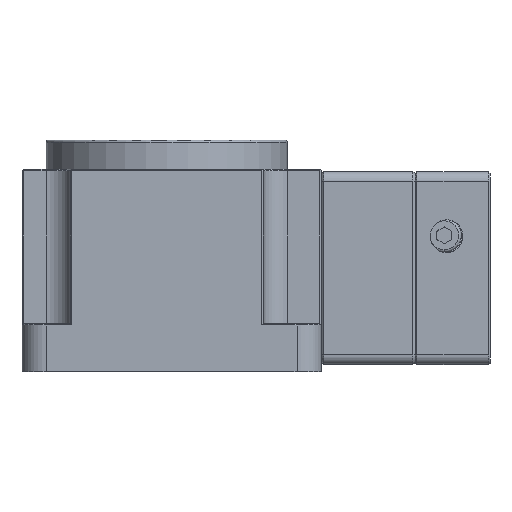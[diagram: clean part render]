
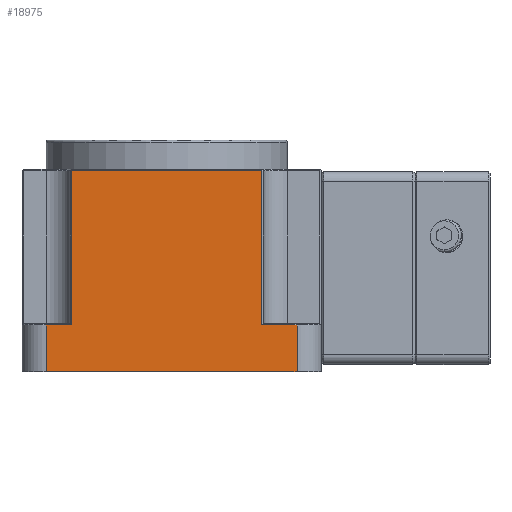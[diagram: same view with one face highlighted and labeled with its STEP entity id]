
A CAD part, left-side view. The second image highlights one B-rep face of the part: STEP entity #18975.
In plain terms, the highlighted planar face has unit normal (-1, 0, 0).
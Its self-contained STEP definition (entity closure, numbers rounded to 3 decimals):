
#155 = EDGE_CURVE ( 'NONE', #3739, #17385, #16329, .T. ) ;
#677 = VECTOR ( 'NONE', #5911, 1000. ) ;
#1273 = VECTOR ( 'NONE', #4562, 1000. ) ;
#1428 = EDGE_CURVE ( 'NONE', #16526, #3739, #3707, .T. ) ;
#1692 = DIRECTION ( 'NONE',  ( 0., 1., 0. ) ) ;
#1933 = LINE ( 'NONE', #7858, #10500 ) ;
#2102 = VERTEX_POINT ( 'NONE', #19024 ) ;
#2351 = CARTESIAN_POINT ( 'NONE',  ( -30., 25., 42. ) ) ;
#2900 = VERTEX_POINT ( 'NONE', #10060 ) ;
#3006 = EDGE_CURVE ( 'NONE', #2102, #13356, #17692, .T. ) ;
#3134 = PLANE ( 'NONE',  #19156 ) ;
#3206 = CARTESIAN_POINT ( 'NONE',  ( -30., -27., 0. ) ) ;
#3707 = LINE ( 'NONE', #2351, #11758 ) ;
#3739 = VERTEX_POINT ( 'NONE', #6952 ) ;
#3755 = VERTEX_POINT ( 'NONE', #12916 ) ;
#4110 = EDGE_CURVE ( 'NONE', #17385, #2900, #17485, .T. ) ;
#4120 = ORIENTED_EDGE ( 'NONE', *, *, #4110, .T. ) ;
#4483 = CARTESIAN_POINT ( 'NONE',  ( -30., -19.7, 42. ) ) ;
#4492 = VECTOR ( 'NONE', #10394, 1000. ) ;
#4562 = DIRECTION ( 'NONE',  ( 0., -1., 0. ) ) ;
#5612 = ORIENTED_EDGE ( 'NONE', *, *, #9326, .T. ) ;
#5701 = DIRECTION ( 'NONE',  ( 0., 1., 0. ) ) ;
#5911 = DIRECTION ( 'NONE',  ( 0., 0., -1. ) ) ;
#6418 = ORIENTED_EDGE ( 'NONE', *, *, #3006, .T. ) ;
#6464 = LINE ( 'NONE', #12353, #18893 ) ;
#6952 = CARTESIAN_POINT ( 'NONE',  ( -30., 25., 0. ) ) ;
#6997 = ORIENTED_EDGE ( 'NONE', *, *, #12075, .T. ) ;
#7858 = CARTESIAN_POINT ( 'NONE',  ( -30., 25., 9.7 ) ) ;
#8596 = EDGE_LOOP ( 'NONE', ( #6418, #6997, #18886, #9728, #4120, #12867, #10312, #5612 ) ) ;
#8610 = CARTESIAN_POINT ( 'NONE',  ( -30., -27., 42. ) ) ;
#8706 = DIRECTION ( 'NONE',  ( 0., 0., 1. ) ) ;
#9054 = CARTESIAN_POINT ( 'NONE',  ( -30., 30., 42. ) ) ;
#9078 = VECTOR ( 'NONE', #5701, 1000. ) ;
#9326 = EDGE_CURVE ( 'NONE', #10899, #2102, #6464, .T. ) ;
#9728 = ORIENTED_EDGE ( 'NONE', *, *, #155, .T. ) ;
#10060 = CARTESIAN_POINT ( 'NONE',  ( -30., -27., 9.7 ) ) ;
#10312 = ORIENTED_EDGE ( 'NONE', *, *, #17337, .T. ) ;
#10394 = DIRECTION ( 'NONE',  ( 0., 0., 1. ) ) ;
#10500 = VECTOR ( 'NONE', #13727, 1000. ) ;
#10899 = VERTEX_POINT ( 'NONE', #18647 ) ;
#10993 = EDGE_CURVE ( 'NONE', #2900, #3755, #13041, .T. ) ;
#11758 = VECTOR ( 'NONE', #13489, 1000. ) ;
#12075 = EDGE_CURVE ( 'NONE', #13356, #16526, #1933, .T. ) ;
#12353 = CARTESIAN_POINT ( 'NONE',  ( -30., 20., 41.7 ) ) ;
#12867 = ORIENTED_EDGE ( 'NONE', *, *, #10993, .T. ) ;
#12871 = CARTESIAN_POINT ( 'NONE',  ( -30., 25., 9.7 ) ) ;
#12916 = CARTESIAN_POINT ( 'NONE',  ( -30., -19.7, 9.7 ) ) ;
#13041 = LINE ( 'NONE', #18943, #9078 ) ;
#13356 = VERTEX_POINT ( 'NONE', #17005 ) ;
#13489 = DIRECTION ( 'NONE',  ( 0., 0., -1. ) ) ;
#13727 = DIRECTION ( 'NONE',  ( 0., 1., 0. ) ) ;
#13911 = VECTOR ( 'NONE', #8706, 1000. ) ;
#14919 = DIRECTION ( 'NONE',  ( 1., 0., 0. ) ) ;
#16329 = LINE ( 'NONE', #17805, #1273 ) ;
#16356 = FACE_OUTER_BOUND ( 'NONE', #8596, .T. ) ;
#16526 = VERTEX_POINT ( 'NONE', #12871 ) ;
#17005 = CARTESIAN_POINT ( 'NONE',  ( -30., 19.7, 9.7 ) ) ;
#17337 = EDGE_CURVE ( 'NONE', #3755, #10899, #17723, .T. ) ;
#17385 = VERTEX_POINT ( 'NONE', #3206 ) ;
#17485 = LINE ( 'NONE', #8610, #13911 ) ;
#17692 = LINE ( 'NONE', #19135, #677 ) ;
#17723 = LINE ( 'NONE', #4483, #4492 ) ;
#17805 = CARTESIAN_POINT ( 'NONE',  ( -30., 30., 0. ) ) ;
#18253 = DIRECTION ( 'NONE',  ( 0., 1., 0. ) ) ;
#18647 = CARTESIAN_POINT ( 'NONE',  ( -30., -19.7, 41.7 ) ) ;
#18886 = ORIENTED_EDGE ( 'NONE', *, *, #1428, .T. ) ;
#18893 = VECTOR ( 'NONE', #18253, 1000. ) ;
#18943 = CARTESIAN_POINT ( 'NONE',  ( -30., -19.7, 9.7 ) ) ;
#18975 = ADVANCED_FACE ( 'NONE', ( #16356 ), #3134, .F. ) ;
#19024 = CARTESIAN_POINT ( 'NONE',  ( -30., 19.7, 41.7 ) ) ;
#19135 = CARTESIAN_POINT ( 'NONE',  ( -30., 19.7, 42. ) ) ;
#19156 = AXIS2_PLACEMENT_3D ( 'NONE', #9054, #14919, #1692 ) ;
